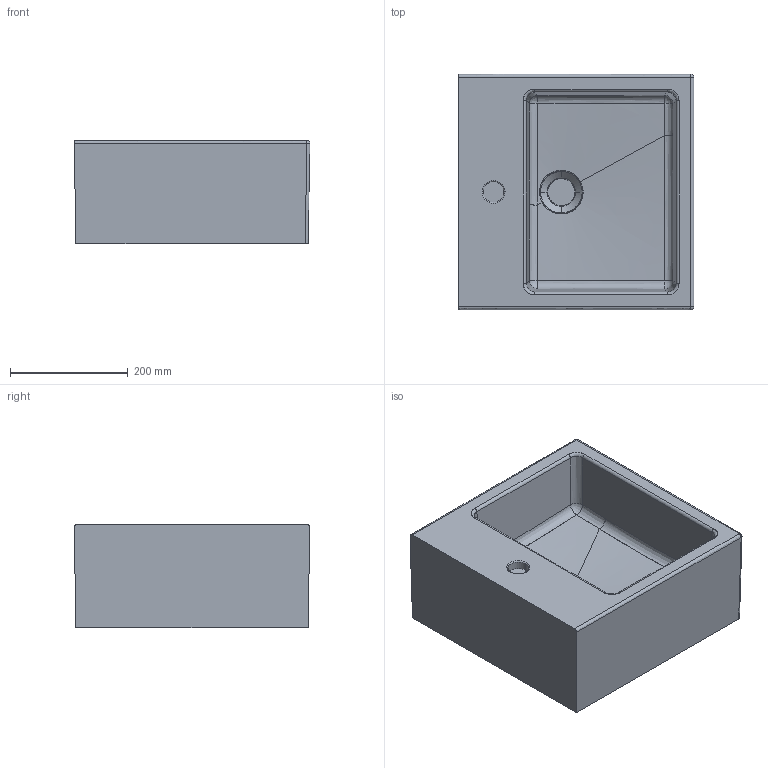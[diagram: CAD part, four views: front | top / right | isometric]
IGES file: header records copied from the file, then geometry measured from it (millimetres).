
Start section: START RECORD GO HERE.
Global section: file name: ART 6034 PLUS 40X40.igs; native system: DASSAULT SYSTEMES CATIA V5 R19 - www.3ds.com; preprocessor: CATIA Version 5 Release 19 SP 5 ; author: Luca; organization: DESKTOP-V7SON24; date: 20200725.085727; units: millimetre
Bounding box: 399.91 x 399.82 x 175 mm (x, y, z)
Surface area: 723496.2 mm2 (no closed solid volume)
Topology: 0 solids, 0 shells, 70 faces, 302 edges, 302 vertices
Faces by surface type: bspline 36, revolution 29, plane 5
